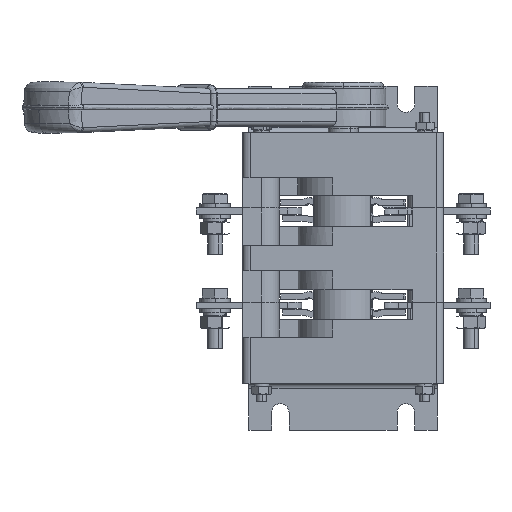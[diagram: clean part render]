
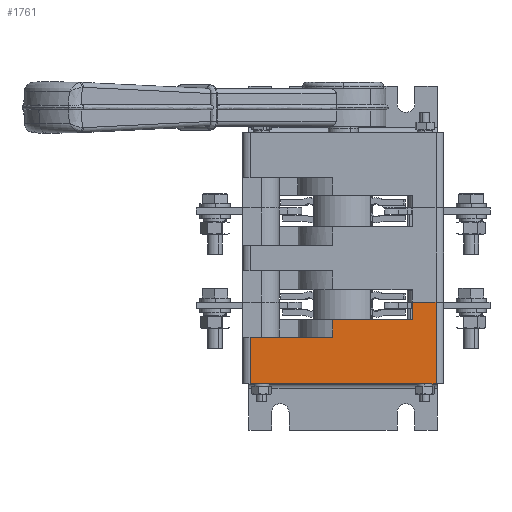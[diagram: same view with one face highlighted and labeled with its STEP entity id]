
A CAD part, left-side view. The second image highlights one B-rep face of the part: STEP entity #1761.
In plain terms, the highlighted planar face has unit normal (-1, 0, 0).
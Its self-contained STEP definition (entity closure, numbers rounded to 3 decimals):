
#1550 = VERTEX_POINT ( 'NONE', #9886 ) ;
#1554 = VERTEX_POINT ( 'NONE', #9931 ) ;
#1557 = EDGE_CURVE ( 'NONE', #1550, #1554, #9928, .T. ) ;
#1568 = VERTEX_POINT ( 'NONE', #9914 ) ;
#1588 = EDGE_CURVE ( 'NONE', #1568, #1550, #9935, .T. ) ;
#1604 = ORIENTED_EDGE ( 'NONE', *, *, #1588, .F. ) ;
#1607 = VERTEX_POINT ( 'NONE', #10021 ) ;
#1611 = EDGE_CURVE ( 'NONE', #1607, #1568, #10059, .T. ) ;
#1691 = ORIENTED_EDGE ( 'NONE', *, *, #1611, .F. ) ;
#1721 = ORIENTED_EDGE ( 'NONE', *, *, #1757, .F. ) ;
#1754 = EDGE_CURVE ( 'NONE', #1787, #1765, #10266, .T. ) ;
#1756 = VERTEX_POINT ( 'NONE', #10241 ) ;
#1757 = EDGE_CURVE ( 'NONE', #1758, #1607, #10261, .T. ) ;
#1758 = VERTEX_POINT ( 'NONE', #10274 ) ;
#1760 = EDGE_CURVE ( 'NONE', #1758, #1756, #10252, .T. ) ;
#1761 = ADVANCED_FACE ( 'NONE', ( #10256 ), #10262, .F. ) ;
#1765 = VERTEX_POINT ( 'NONE', #10309 ) ;
#1771 = EDGE_LOOP ( 'NONE', ( #1721, #1832, #1834, #1773, #1837, #1835, #1604, #1691 ) ) ;
#1773 = ORIENTED_EDGE ( 'NONE', *, *, #1754, .T. ) ;
#1787 = VERTEX_POINT ( 'NONE', #10345 ) ;
#1832 = ORIENTED_EDGE ( 'NONE', *, *, #1760, .T. ) ;
#1833 = EDGE_CURVE ( 'NONE', #1756, #1787, #10441, .T. ) ;
#1834 = ORIENTED_EDGE ( 'NONE', *, *, #1833, .T. ) ;
#1835 = ORIENTED_EDGE ( 'NONE', *, *, #1557, .F. ) ;
#1836 = EDGE_CURVE ( 'NONE', #1554, #1765, #10381, .T. ) ;
#1837 = ORIENTED_EDGE ( 'NONE', *, *, #1836, .F. ) ;
#9886 = CARTESIAN_POINT ( 'NONE',  ( -17.5, -27.5, 25.5 ) ) ;
#9914 = CARTESIAN_POINT ( 'NONE',  ( -17.5, 4.213, 25.5 ) ) ;
#9923 = DIRECTION ( 'NONE',  ( 0., 0., 1. ) ) ;
#9924 = VECTOR ( 'NONE', #9923, 1000. ) ;
#9927 = CARTESIAN_POINT ( 'NONE',  ( -17.5, -27.5, 25.5 ) ) ;
#9928 = LINE ( 'NONE', #9927, #9924 ) ;
#9931 = CARTESIAN_POINT ( 'NONE',  ( -17.5, -27.5, 32.5 ) ) ;
#9935 = LINE ( 'NONE', #9971, #9970 ) ;
#9969 = DIRECTION ( 'NONE',  ( 0., -1., 0. ) ) ;
#9970 = VECTOR ( 'NONE', #9969, 1000. ) ;
#9971 = CARTESIAN_POINT ( 'NONE',  ( -17.5, 40., 25.5 ) ) ;
#10021 = CARTESIAN_POINT ( 'NONE',  ( -17.5, 4.213, 18.5 ) ) ;
#10056 = DIRECTION ( 'NONE',  ( 0., 0., 1. ) ) ;
#10057 = VECTOR ( 'NONE', #10056, 1000. ) ;
#10058 = CARTESIAN_POINT ( 'NONE',  ( -17.5, 4.213, 18.5 ) ) ;
#10059 = LINE ( 'NONE', #10058, #10057 ) ;
#10241 = CARTESIAN_POINT ( 'NONE',  ( -17.5, 37., 0. ) ) ;
#10251 = CARTESIAN_POINT ( 'NONE',  ( -17.5, 37., 32.5 ) ) ;
#10252 = LINE ( 'NONE', #10251, #10318 ) ;
#10253 = DIRECTION ( 'NONE',  ( 0., -1., 0. ) ) ;
#10254 = VECTOR ( 'NONE', #10253, 1000. ) ;
#10255 = CARTESIAN_POINT ( 'NONE',  ( -17.5, 40., 18.5 ) ) ;
#10256 = FACE_OUTER_BOUND ( 'NONE', #1771, .T. ) ;
#10261 = LINE ( 'NONE', #10255, #10254 ) ;
#10262 = PLANE ( 'NONE',  #10313 ) ;
#10263 = DIRECTION ( 'NONE',  ( 0., 0., 1. ) ) ;
#10264 = VECTOR ( 'NONE', #10263, 1000. ) ;
#10265 = CARTESIAN_POINT ( 'NONE',  ( -17.5, -37., 32.5 ) ) ;
#10266 = LINE ( 'NONE', #10265, #10264 ) ;
#10274 = CARTESIAN_POINT ( 'NONE',  ( -17.5, 37., 18.5 ) ) ;
#10309 = CARTESIAN_POINT ( 'NONE',  ( -17.5, -37., 32.5 ) ) ;
#10310 = DIRECTION ( 'NONE',  ( 0., 1., 0. ) ) ;
#10311 = DIRECTION ( 'NONE',  ( 1., 0., 0. ) ) ;
#10312 = CARTESIAN_POINT ( 'NONE',  ( -17.5, 40., 32.5 ) ) ;
#10313 = AXIS2_PLACEMENT_3D ( 'NONE', #10312, #10311, #10310 ) ;
#10317 = DIRECTION ( 'NONE',  ( 0., 0., -1. ) ) ;
#10318 = VECTOR ( 'NONE', #10317, 1000. ) ;
#10345 = CARTESIAN_POINT ( 'NONE',  ( -17.5, -37., 0. ) ) ;
#10380 = CARTESIAN_POINT ( 'NONE',  ( -17.5, 40., 32.5 ) ) ;
#10381 = LINE ( 'NONE', #10380, #10437 ) ;
#10433 = DIRECTION ( 'NONE',  ( 0., -1., 0. ) ) ;
#10437 = VECTOR ( 'NONE', #10433, 1000. ) ;
#10438 = DIRECTION ( 'NONE',  ( 0., -1., 0. ) ) ;
#10439 = VECTOR ( 'NONE', #10438, 1000. ) ;
#10440 = CARTESIAN_POINT ( 'NONE',  ( -17.5, 40., 0. ) ) ;
#10441 = LINE ( 'NONE', #10440, #10439 ) ;
